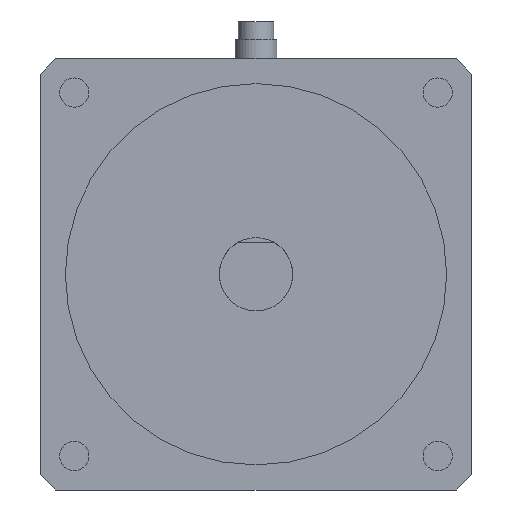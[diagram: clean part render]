
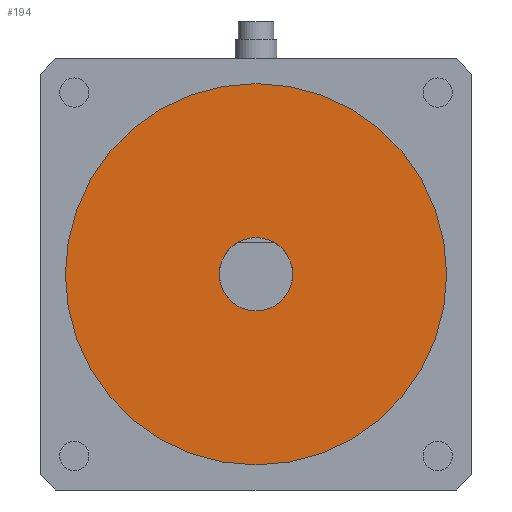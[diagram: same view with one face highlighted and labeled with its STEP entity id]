
A CAD part, front view. The second image highlights one B-rep face of the part: STEP entity #194.
In plain terms, the highlighted planar face has unit normal (0, -1, 0).
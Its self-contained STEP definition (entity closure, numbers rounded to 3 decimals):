
#194 = ADVANCED_FACE( '', ( #453, #454 ), #455, .F. );
#453 = FACE_BOUND( '', #765, .T. );
#454 = FACE_OUTER_BOUND( '', #766, .T. );
#455 = PLANE( '', #767 );
#765 = EDGE_LOOP( '', ( #1238 ) );
#766 = EDGE_LOOP( '', ( #1239 ) );
#767 = AXIS2_PLACEMENT_3D( '', #1240, #1241, #1242 );
#1238 = ORIENTED_EDGE( '', *, *, #1719, .T. );
#1239 = ORIENTED_EDGE( '', *, *, #1720, .F. );
#1240 = CARTESIAN_POINT( '', ( -222.076, -1.9, -12.889 ) );
#1241 = DIRECTION( '', ( 0., 1., 0. ) );
#1242 = DIRECTION( '', ( 0., 0., 1. ) );
#1719 = EDGE_CURVE( '', #2058, #2058, #2059, .T. );
#1720 = EDGE_CURVE( '', #2060, #2060, #2061, .T. );
#2058 = VERTEX_POINT( '', #2640 );
#2059 = CIRCLE( '', #2641, 7. );
#2060 = VERTEX_POINT( '', #2642 );
#2061 = CIRCLE( '', #2643, 36.5 );
#2640 = CARTESIAN_POINT( '', ( -222.076, -1.9, -5.889 ) );
#2641 = AXIS2_PLACEMENT_3D( '', #2983, #2984, #2985 );
#2642 = CARTESIAN_POINT( '', ( -222.076, -1.9, 23.611 ) );
#2643 = AXIS2_PLACEMENT_3D( '', #2986, #2987, #2988 );
#2983 = CARTESIAN_POINT( '', ( -222.076, -1.9, -12.889 ) );
#2984 = DIRECTION( '', ( 0., 1., 0. ) );
#2985 = DIRECTION( '', ( 0., 0., 1. ) );
#2986 = CARTESIAN_POINT( '', ( -222.076, -1.9, -12.889 ) );
#2987 = DIRECTION( '', ( 0., 1., 0. ) );
#2988 = DIRECTION( '', ( 0., 0., 1. ) );
